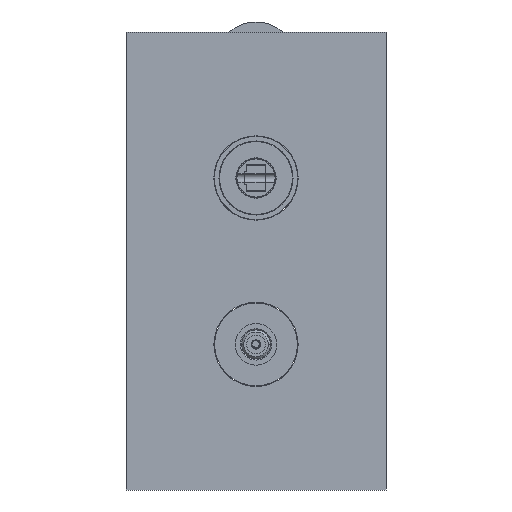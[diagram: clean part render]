
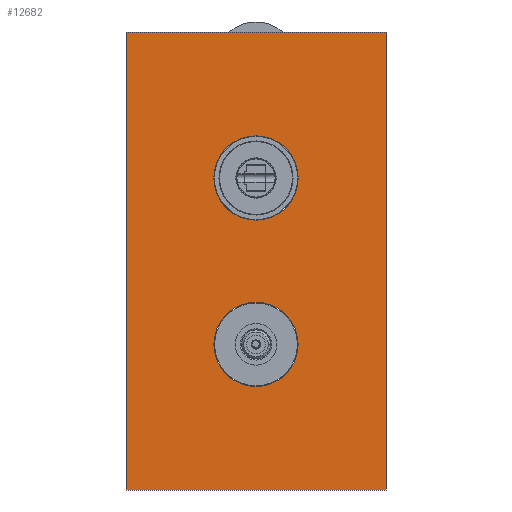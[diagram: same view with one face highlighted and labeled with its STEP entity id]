
A CAD part, front view. The second image highlights one B-rep face of the part: STEP entity #12682.
In plain terms, the highlighted planar face has unit normal (0, -1, 0).
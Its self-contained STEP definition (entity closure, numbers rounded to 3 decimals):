
#12238=DIRECTION('',(0.,0.,1.));
#12239=VECTOR('',#12238,220.);
#12240=CARTESIAN_POINT('',(62.5,-12.,-150.));
#12241=LINE('',#12240,#12239);
#12242=DIRECTION('',(1.,0.,0.));
#12243=VECTOR('',#12242,125.);
#12244=CARTESIAN_POINT('',(-62.5,-12.,-150.));
#12245=LINE('',#12244,#12243);
#12246=DIRECTION('',(0.,0.,-1.));
#12247=VECTOR('',#12246,220.);
#12248=CARTESIAN_POINT('',(-62.5,-12.,70.));
#12249=LINE('',#12248,#12247);
#12250=DIRECTION('',(-1.,0.,0.));
#12251=VECTOR('',#12250,125.);
#12252=CARTESIAN_POINT('',(62.5,-12.,70.));
#12253=LINE('',#12252,#12251);
#12254=CARTESIAN_POINT('',(0.,-12.,-80.));
#12255=DIRECTION('',(0.,-1.,0.));
#12256=DIRECTION('',(-1.,0.,0.));
#12257=AXIS2_PLACEMENT_3D('',#12254,#12255,#12256);
#12259=CARTESIAN_POINT('',(0.,-12.,-80.));
#12260=DIRECTION('',(0.,-1.,0.));
#12261=DIRECTION('',(1.,0.,0.));
#12262=AXIS2_PLACEMENT_3D('',#12259,#12260,#12261);
#12264=CARTESIAN_POINT('',(0.,-12.,0.));
#12265=DIRECTION('',(0.,-1.,0.));
#12266=DIRECTION('',(-1.,0.,0.));
#12267=AXIS2_PLACEMENT_3D('',#12264,#12265,#12266);
#12269=CARTESIAN_POINT('',(0.,-12.,0.));
#12270=DIRECTION('',(0.,-1.,0.));
#12271=DIRECTION('',(1.,0.,0.));
#12272=AXIS2_PLACEMENT_3D('',#12269,#12270,#12271);
#12436=CARTESIAN_POINT('',(62.5,-12.,-150.));
#12437=CARTESIAN_POINT('',(62.5,-12.,70.));
#12438=VERTEX_POINT('',#12436);
#12439=VERTEX_POINT('',#12437);
#12440=CARTESIAN_POINT('',(-62.5,-12.,70.));
#12441=CARTESIAN_POINT('',(-62.5,-12.,-150.));
#12442=VERTEX_POINT('',#12440);
#12443=VERTEX_POINT('',#12441);
#12452=CARTESIAN_POINT('',(-20.25,-12.,-80.));
#12453=CARTESIAN_POINT('',(20.25,-12.,-80.));
#12454=VERTEX_POINT('',#12452);
#12455=VERTEX_POINT('',#12453);
#12456=CARTESIAN_POINT('',(-20.25,-12.,0.));
#12457=CARTESIAN_POINT('',(20.25,-12.,0.));
#12458=VERTEX_POINT('',#12456);
#12459=VERTEX_POINT('',#12457);
#12659=CARTESIAN_POINT('',(0.,-12.,-40.));
#12660=DIRECTION('',(0.,-1.,0.));
#12661=DIRECTION('',(-1.,0.,0.));
#12662=AXIS2_PLACEMENT_3D('',#12659,#12660,#12661);
#12663=PLANE('',#12662);
#12664=ORIENTED_EDGE('',*,*,#12611,.F.);
#12665=ORIENTED_EDGE('',*,*,#12626,.F.);
#12666=ORIENTED_EDGE('',*,*,#12640,.F.);
#12667=ORIENTED_EDGE('',*,*,#12653,.F.);
#12668=EDGE_LOOP('',(#12664,#12665,#12666,#12667));
#12669=FACE_OUTER_BOUND('',#12668,.F.);
#12671=ORIENTED_EDGE('',*,*,#12670,.T.);
#12673=ORIENTED_EDGE('',*,*,#12672,.T.);
#12674=EDGE_LOOP('',(#12671,#12673));
#12675=FACE_BOUND('',#12674,.F.);
#12677=ORIENTED_EDGE('',*,*,#12676,.T.);
#12679=ORIENTED_EDGE('',*,*,#12678,.T.);
#12680=EDGE_LOOP('',(#12677,#12679));
#12681=FACE_BOUND('',#12680,.F.);
#12682=ADVANCED_FACE('',(#12669,#12675,#12681),#12663,.T.);
#12258=CIRCLE('',#12257,20.25);
#12263=CIRCLE('',#12262,20.25);
#12268=CIRCLE('',#12267,20.25);
#12273=CIRCLE('',#12272,20.25);
#12611=EDGE_CURVE('',#12438,#12439,#12241,.T.);
#12626=EDGE_CURVE('',#12443,#12438,#12245,.T.);
#12640=EDGE_CURVE('',#12442,#12443,#12249,.T.);
#12653=EDGE_CURVE('',#12439,#12442,#12253,.T.);
#12670=EDGE_CURVE('',#12454,#12455,#12258,.T.);
#12672=EDGE_CURVE('',#12455,#12454,#12263,.T.);
#12676=EDGE_CURVE('',#12458,#12459,#12268,.T.);
#12678=EDGE_CURVE('',#12459,#12458,#12273,.T.);
